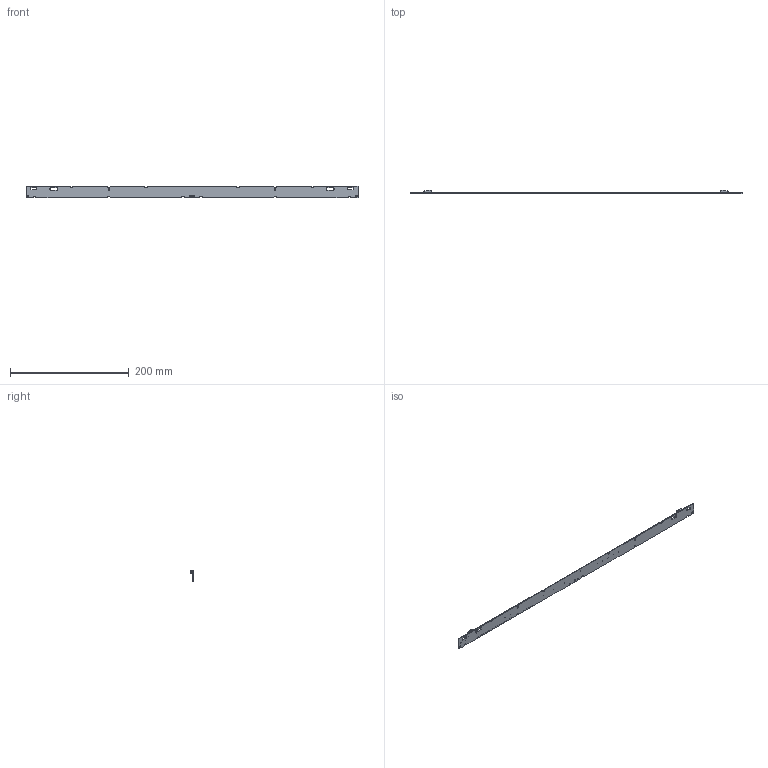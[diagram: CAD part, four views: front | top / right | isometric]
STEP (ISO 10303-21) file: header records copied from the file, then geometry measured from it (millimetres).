
FILE_DESCRIPTION((''),'2;1');
FILE_NAME('ASM_KONE_DIODE_LOGO_ASM','2020-10-28T14:59:16',('msavic'),(''),'CREO PARAMETRIC BY PTC INC, 2016510','CREO PARAMETRIC BY PTC INC, 2016510','');
FILE_SCHEMA(('AUTOMOTIVE_DESIGN { 1 0 10303 214 1 1 1 1 }'));
Products named in the file (12): BAZA_WU-M-672; DIODA_STW8A2PD_ASM; VSO-LOGO-5MM_3; VSO-LOGO-5MM001_2_1; BUILT-IN_LED_MODULE-5MM004_2; BUILT-IN_LED_MODULE-5MM003_2; BUILT-IN_LED_MODULE-5MM002_2; BUILT-IN_LED_MODULE-5MM001_2; CE-ZEICHEN-6MM_2; CE-ZEICHEN-6MM001_2; 2060-452_1_2_3_4; ASM_KONE_DIODE_LOGO_ASM
Assembly tree (60 placements, depth 2):
  ASM_KONE_DIODE_LOGO_ASM
    BAZA_WU-M-672
    DIODA_STW8A2PD_ASM  x48
    VSO-LOGO-5MM_3
    VSO-LOGO-5MM001_2_1
    BUILT-IN_LED_MODULE-5MM004_2
    BUILT-IN_LED_MODULE-5MM003_2
    BUILT-IN_LED_MODULE-5MM002_2
    BUILT-IN_LED_MODULE-5MM001_2  x2
    CE-ZEICHEN-6MM_2
    CE-ZEICHEN-6MM001_2
    2060-452_1_2_3_4  x2
Bounding box: 559 x 5.95 x 20 mm (x, y, z)
Volume: 17619.1 mm3; surface area: 25968.3 mm2
Topology: 12 solids, 60 shells, 7080 faces, 20080 edges, 13388 vertices
Faces by surface type: plane 6161, cylinder 907, extrusion 10, sphere 2
Entity records: 117683 total; most frequent: CARTESIAN_POINT 17539, ORIENTED_EDGE 16974, DIRECTION 14932, EDGE_CURVE 8487, VECTOR 8161, LINE 8151, VERTEX_POINT 5660, AXIS2_PLACEMENT_3D 3368
